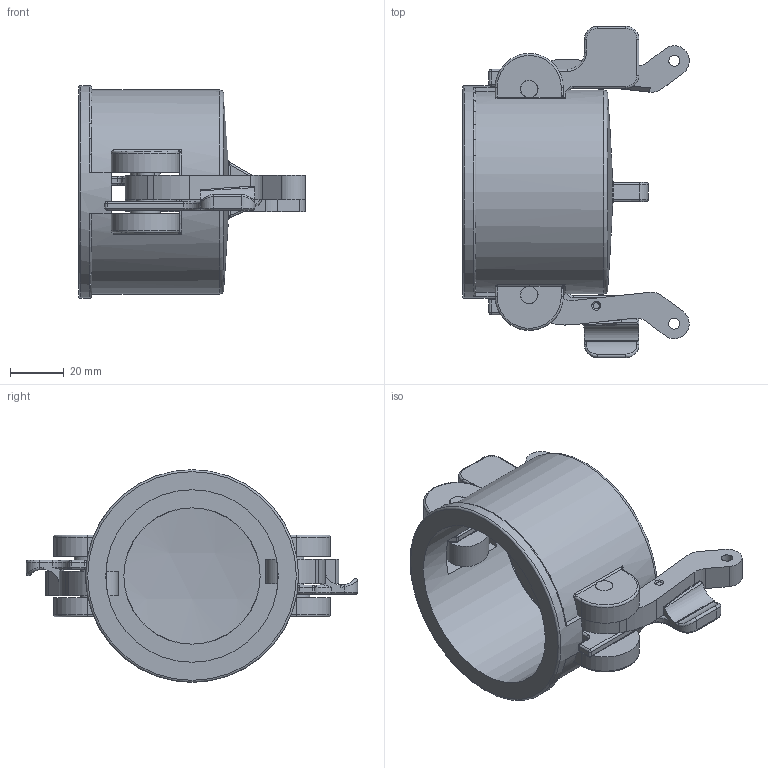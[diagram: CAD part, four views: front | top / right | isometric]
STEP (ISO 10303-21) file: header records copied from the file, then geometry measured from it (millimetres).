
FILE_DESCRIPTION(/* description */ ('Alibre Inc.'),/* implementation_level */ '2;1');
FILE_NAME(/* name */ 'export0',/* time_stamp */ '2016-01-26T09:10:00-05:00',/* author */ (''),/* organization */ (''),/* preprocessor_version */ 'ST-DEVELOPER v14',/* originating_system */ 'Alibre',/* authorisation */ '');
FILE_SCHEMA (('CONFIG_CONTROL_DESIGN'));
Length unit declared in the file: centimetre
Products named in the file (6): ID_1
Bounding box: 84.41 x 123.44 x 79.25 mm (x, y, z)
Volume: 122642.1 mm3; surface area: 54849 mm2
Topology: 8 solids, 8 shells, 321 faces, 775 edges, 456 vertices
Faces by surface type: cylinder 126, plane 109, torus 44, bspline 20, sphere 18, cone 4
Full cylindrical faces by diameter (mm): 4.064 x2, 4.775 x1, 6.35 x8, 6.604 x4, 11.125 x2, 50.8 x1, 64.262 x1, 66.802 x1, 68.072 x1, 76.048 x1, 79.248 x1
Entity records: 8785 total; most frequent: CARTESIAN_POINT 3480, ORIENTED_EDGE 964, DIRECTION 912, EDGE_CURVE 478, AXIS2_PLACEMENT_3D 409, VERTEX_POINT 298, EDGE_LOOP 254, FACE_BOUND 254
